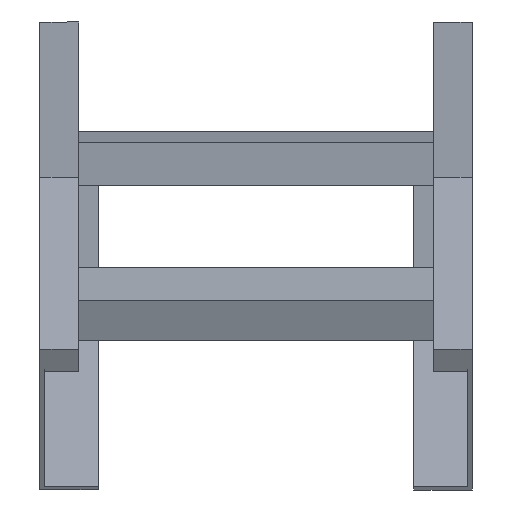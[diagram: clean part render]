
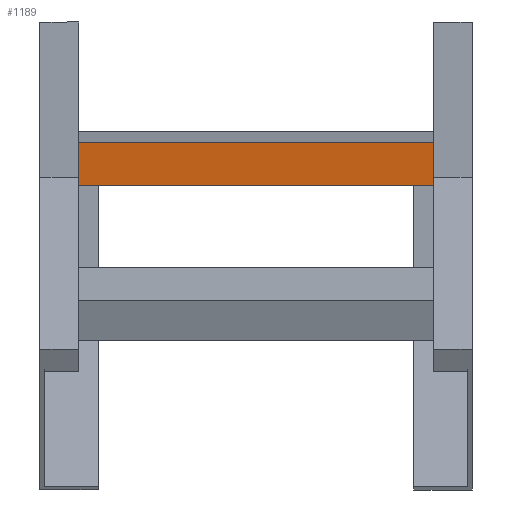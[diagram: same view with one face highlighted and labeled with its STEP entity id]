
A CAD part, top view. The second image highlights one B-rep face of the part: STEP entity #1189.
In plain terms, the highlighted planar face has unit normal (0, -0.131, 0.991) as drawn and (0, 0, 1) by its records, which use the part's own axes.
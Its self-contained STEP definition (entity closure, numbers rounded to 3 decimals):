
#9 = DIRECTION ( 'NONE',  ( -1., 0., 0. ) ) ;
#56 = CARTESIAN_POINT ( 'NONE',  ( 98., 0., 20.25 ) ) ;
#99 = VECTOR ( 'NONE', #239, 1000. ) ;
#129 = ORIENTED_EDGE ( 'NONE', *, *, #1138, .T. ) ;
#148 = VECTOR ( 'NONE', #9, 1000. ) ;
#160 = FACE_OUTER_BOUND ( 'NONE', #683, .T. ) ;
#167 = LINE ( 'NONE', #636, #993 ) ;
#239 = DIRECTION ( 'NONE',  ( 0., -1., 0. ) ) ;
#278 = DIRECTION ( 'NONE',  ( 0., 1., 0. ) ) ;
#446 = CARTESIAN_POINT ( 'NONE',  ( -98., 20., 20.25 ) ) ;
#577 = LINE ( 'NONE', #1048, #148 ) ;
#593 = VERTEX_POINT ( 'NONE', #446 ) ;
#631 = EDGE_CURVE ( 'NONE', #593, #1013, #839, .T. ) ;
#636 = CARTESIAN_POINT ( 'NONE',  ( 98., 20., 20.25 ) ) ;
#645 = DIRECTION ( 'NONE',  ( 0., 0., -1. ) ) ;
#683 = EDGE_LOOP ( 'NONE', ( #720, #828, #1322, #129 ) ) ;
#687 = CARTESIAN_POINT ( 'NONE',  ( 98., 0., 20.25 ) ) ;
#720 = ORIENTED_EDGE ( 'NONE', *, *, #631, .T. ) ;
#764 = CARTESIAN_POINT ( 'NONE',  ( 98., 20., 20.25 ) ) ;
#828 = ORIENTED_EDGE ( 'NONE', *, *, #1200, .F. ) ;
#839 = LINE ( 'NONE', #1073, #99 ) ;
#909 = VECTOR ( 'NONE', #1455, 1000. ) ;
#954 = VERTEX_POINT ( 'NONE', #1272 ) ;
#962 = LINE ( 'NONE', #56, #909 ) ;
#971 = AXIS2_PLACEMENT_3D ( 'NONE', #764, #645, #278 ) ;
#993 = VECTOR ( 'NONE', #1100, 1000. ) ;
#1013 = VERTEX_POINT ( 'NONE', #1490 ) ;
#1048 = CARTESIAN_POINT ( 'NONE',  ( 98., 20., 20.25 ) ) ;
#1073 = CARTESIAN_POINT ( 'NONE',  ( -98., 20., 20.25 ) ) ;
#1100 = DIRECTION ( 'NONE',  ( 0., -1., 0. ) ) ;
#1138 = EDGE_CURVE ( 'NONE', #954, #593, #577, .T. ) ;
#1189 = ADVANCED_FACE ( 'NONE', ( #160 ), #1330, .F. ) ;
#1200 = EDGE_CURVE ( 'NONE', #1426, #1013, #962, .T. ) ;
#1272 = CARTESIAN_POINT ( 'NONE',  ( 98., 20., 20.25 ) ) ;
#1305 = EDGE_CURVE ( 'NONE', #954, #1426, #167, .T. ) ;
#1322 = ORIENTED_EDGE ( 'NONE', *, *, #1305, .F. ) ;
#1330 = PLANE ( 'NONE',  #971 ) ;
#1426 = VERTEX_POINT ( 'NONE', #687 ) ;
#1455 = DIRECTION ( 'NONE',  ( -1., 0., 0. ) ) ;
#1490 = CARTESIAN_POINT ( 'NONE',  ( -98., 0., 20.25 ) ) ;
